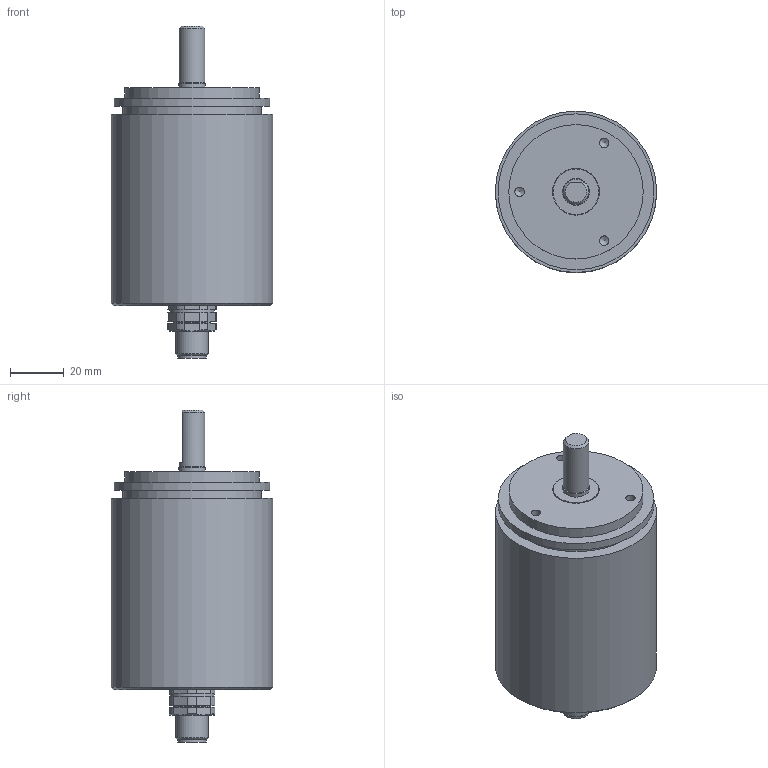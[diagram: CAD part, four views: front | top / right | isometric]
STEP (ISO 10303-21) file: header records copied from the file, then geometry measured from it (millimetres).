
FILE_DESCRIPTION(/* description */ ('Alibre Inc.'),/* implementation_level */ '2;1');
FILE_NAME(/* name */ 'export0',/* time_stamp */ '2016-10-21T14:16:14-04:00',/* author */ (''),/* organization */ (''),/* preprocessor_version */ 'ST-DEVELOPER v14',/* originating_system */ 'Alibre',/* authorisation */ '');
FILE_SCHEMA (('CONFIG_CONTROL_DESIGN'));
Length unit declared in the file: centimetre
Products named in the file (1): ID_3
Bounding box: 60 x 60 x 123.5 mm (x, y, z)
Volume: 138974.5 mm3; surface area: 40075.6 mm2
Topology: 3 solids, 42 shells, 272 faces, 455 edges, 297 vertices
Faces by surface type: plane 141, cylinder 101, cone 27, bspline 3
Full cylindrical faces by diameter (mm): 1.4 x8, 2.87 x2, 2.92 x1, 3 x35, 3.545 x3, 8.3 x1, 9.5 x1, 9.9 x2, 10 x3, 10.5 x1, 11.8 x1, 12 x1, 13.5 x2, 14 x1, 15.2 x1, 16.5 x1, 17 x2, 20 x1, 26 x1, 46 x1, 50 x1, 51.5 x1, 55.8 x1, 58 x1, 60 x1
Entity records: 5701 total; most frequent: CARTESIAN_POINT 1060, DIRECTION 922, ORIENTED_EDGE 692, AXIS2_PLACEMENT_3D 466, FACE_BOUND 409, EDGE_LOOP 406, EDGE_CURVE 346, VERTEX_POINT 287
